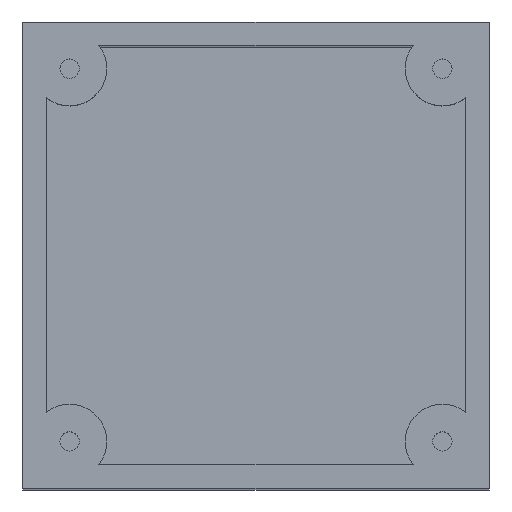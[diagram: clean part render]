
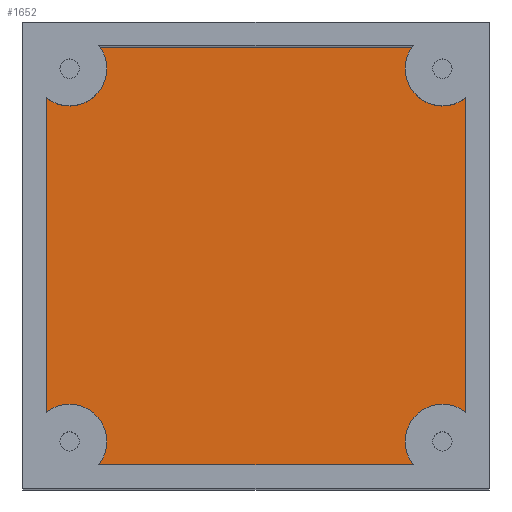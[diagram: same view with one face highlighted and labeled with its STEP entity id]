
A CAD part, top view. The second image highlights one B-rep face of the part: STEP entity #1652.
In plain terms, the highlighted planar face has unit normal (0, 0, 1).
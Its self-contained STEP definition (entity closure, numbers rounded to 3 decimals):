
#353 = PLANE('',#354);
#354 = AXIS2_PLACEMENT_3D('',#355,#356,#357);
#355 = CARTESIAN_POINT('',(27.,-27.,3.));
#356 = DIRECTION('',(1.,0.,0.));
#357 = DIRECTION('',(0.,0.,1.));
#410 = PLANE('',#411);
#411 = AXIS2_PLACEMENT_3D('',#412,#413,#414);
#412 = CARTESIAN_POINT('',(-27.,-27.,3.));
#413 = DIRECTION('',(0.,1.,0.));
#414 = DIRECTION('',(0.,0.,1.));
#467 = PLANE('',#468);
#468 = AXIS2_PLACEMENT_3D('',#469,#470,#471);
#469 = CARTESIAN_POINT('',(-27.,-27.,3.));
#470 = DIRECTION('',(1.,0.,0.));
#471 = DIRECTION('',(0.,0.,1.));
#524 = PLANE('',#525);
#525 = AXIS2_PLACEMENT_3D('',#526,#527,#528);
#526 = CARTESIAN_POINT('',(-27.,27.,3.));
#527 = DIRECTION('',(0.,1.,0.));
#528 = DIRECTION('',(0.,0.,1.));
#830 = VERTEX_POINT('',#831);
#831 = CARTESIAN_POINT('',(27.,-27.,3.));
#854 = EDGE_CURVE('',#830,#855,#857,.T.);
#855 = VERTEX_POINT('',#856);
#856 = CARTESIAN_POINT('',(27.,27.,3.));
#857 = SURFACE_CURVE('',#858,(#862,#869),.PCURVE_S1.);
#858 = LINE('',#859,#860);
#859 = CARTESIAN_POINT('',(27.,-27.,3.));
#860 = VECTOR('',#861,1.);
#861 = DIRECTION('',(0.,1.,0.));
#862 = PCURVE('',#353,#863);
#863 = DEFINITIONAL_REPRESENTATION('',(#864),#868);
#864 = LINE('',#865,#866);
#865 = CARTESIAN_POINT('',(0.,0.));
#866 = VECTOR('',#867,1.);
#867 = DIRECTION('',(0.,-1.));
#868 = ( GEOMETRIC_REPRESENTATION_CONTEXT(2) 
PARAMETRIC_REPRESENTATION_CONTEXT() REPRESENTATION_CONTEXT('2D SPACE',''
  ) );
#869 = PCURVE('',#870,#875);
#870 = PLANE('',#871);
#871 = AXIS2_PLACEMENT_3D('',#872,#873,#874);
#872 = CARTESIAN_POINT('',(-27.,-27.,3.));
#873 = DIRECTION('',(0.,0.,1.));
#874 = DIRECTION('',(1.,0.,0.));
#875 = DEFINITIONAL_REPRESENTATION('',(#876),#880);
#876 = LINE('',#877,#878);
#877 = CARTESIAN_POINT('',(54.,0.));
#878 = VECTOR('',#879,1.);
#879 = DIRECTION('',(0.,1.));
#880 = ( GEOMETRIC_REPRESENTATION_CONTEXT(2) 
PARAMETRIC_REPRESENTATION_CONTEXT() REPRESENTATION_CONTEXT('2D SPACE',''
  ) );
#1108 = EDGE_CURVE('',#1109,#830,#1111,.T.);
#1109 = VERTEX_POINT('',#1110);
#1110 = CARTESIAN_POINT('',(-27.,-27.,3.));
#1111 = SURFACE_CURVE('',#1112,(#1116,#1123),.PCURVE_S1.);
#1112 = LINE('',#1113,#1114);
#1113 = CARTESIAN_POINT('',(-27.,-27.,3.));
#1114 = VECTOR('',#1115,1.);
#1115 = DIRECTION('',(1.,0.,0.));
#1116 = PCURVE('',#410,#1117);
#1117 = DEFINITIONAL_REPRESENTATION('',(#1118),#1122);
#1118 = LINE('',#1119,#1120);
#1119 = CARTESIAN_POINT('',(0.,0.));
#1120 = VECTOR('',#1121,1.);
#1121 = DIRECTION('',(0.,1.));
#1122 = ( GEOMETRIC_REPRESENTATION_CONTEXT(2) 
PARAMETRIC_REPRESENTATION_CONTEXT() REPRESENTATION_CONTEXT('2D SPACE',''
  ) );
#1123 = PCURVE('',#870,#1124);
#1124 = DEFINITIONAL_REPRESENTATION('',(#1125),#1129);
#1125 = LINE('',#1126,#1127);
#1126 = CARTESIAN_POINT('',(0.,0.));
#1127 = VECTOR('',#1128,1.);
#1128 = DIRECTION('',(1.,0.));
#1129 = ( GEOMETRIC_REPRESENTATION_CONTEXT(2) 
PARAMETRIC_REPRESENTATION_CONTEXT() REPRESENTATION_CONTEXT('2D SPACE',''
  ) );
#1230 = EDGE_CURVE('',#1231,#855,#1233,.T.);
#1231 = VERTEX_POINT('',#1232);
#1232 = CARTESIAN_POINT('',(-27.,27.,3.));
#1233 = SURFACE_CURVE('',#1234,(#1238,#1245),.PCURVE_S1.);
#1234 = LINE('',#1235,#1236);
#1235 = CARTESIAN_POINT('',(-27.,27.,3.));
#1236 = VECTOR('',#1237,1.);
#1237 = DIRECTION('',(1.,0.,0.));
#1238 = PCURVE('',#524,#1239);
#1239 = DEFINITIONAL_REPRESENTATION('',(#1240),#1244);
#1240 = LINE('',#1241,#1242);
#1241 = CARTESIAN_POINT('',(0.,0.));
#1242 = VECTOR('',#1243,1.);
#1243 = DIRECTION('',(0.,1.));
#1244 = ( GEOMETRIC_REPRESENTATION_CONTEXT(2) 
PARAMETRIC_REPRESENTATION_CONTEXT() REPRESENTATION_CONTEXT('2D SPACE',''
  ) );
#1245 = PCURVE('',#870,#1246);
#1246 = DEFINITIONAL_REPRESENTATION('',(#1247),#1251);
#1247 = LINE('',#1248,#1249);
#1248 = CARTESIAN_POINT('',(0.,54.));
#1249 = VECTOR('',#1250,1.);
#1250 = DIRECTION('',(1.,0.));
#1251 = ( GEOMETRIC_REPRESENTATION_CONTEXT(2) 
PARAMETRIC_REPRESENTATION_CONTEXT() REPRESENTATION_CONTEXT('2D SPACE',''
  ) );
#1456 = EDGE_CURVE('',#1109,#1231,#1457,.T.);
#1457 = SURFACE_CURVE('',#1458,(#1462,#1469),.PCURVE_S1.);
#1458 = LINE('',#1459,#1460);
#1459 = CARTESIAN_POINT('',(-27.,-27.,3.));
#1460 = VECTOR('',#1461,1.);
#1461 = DIRECTION('',(0.,1.,0.));
#1462 = PCURVE('',#467,#1463);
#1463 = DEFINITIONAL_REPRESENTATION('',(#1464),#1468);
#1464 = LINE('',#1465,#1466);
#1465 = CARTESIAN_POINT('',(0.,0.));
#1466 = VECTOR('',#1467,1.);
#1467 = DIRECTION('',(0.,-1.));
#1468 = ( GEOMETRIC_REPRESENTATION_CONTEXT(2) 
PARAMETRIC_REPRESENTATION_CONTEXT() REPRESENTATION_CONTEXT('2D SPACE',''
  ) );
#1469 = PCURVE('',#870,#1470);
#1470 = DEFINITIONAL_REPRESENTATION('',(#1471),#1475);
#1471 = LINE('',#1472,#1473);
#1472 = CARTESIAN_POINT('',(0.,0.));
#1473 = VECTOR('',#1474,1.);
#1474 = DIRECTION('',(0.,1.));
#1475 = ( GEOMETRIC_REPRESENTATION_CONTEXT(2) 
PARAMETRIC_REPRESENTATION_CONTEXT() REPRESENTATION_CONTEXT('2D SPACE',''
  ) );
#1652 = ADVANCED_FACE('',(#1653),#870,.T.);
#1653 = FACE_BOUND('',#1654,.T.);
#1654 = EDGE_LOOP('',(#1655,#1656,#1657,#1658));
#1655 = ORIENTED_EDGE('',*,*,#1456,.F.);
#1656 = ORIENTED_EDGE('',*,*,#1108,.T.);
#1657 = ORIENTED_EDGE('',*,*,#854,.T.);
#1658 = ORIENTED_EDGE('',*,*,#1230,.F.);
